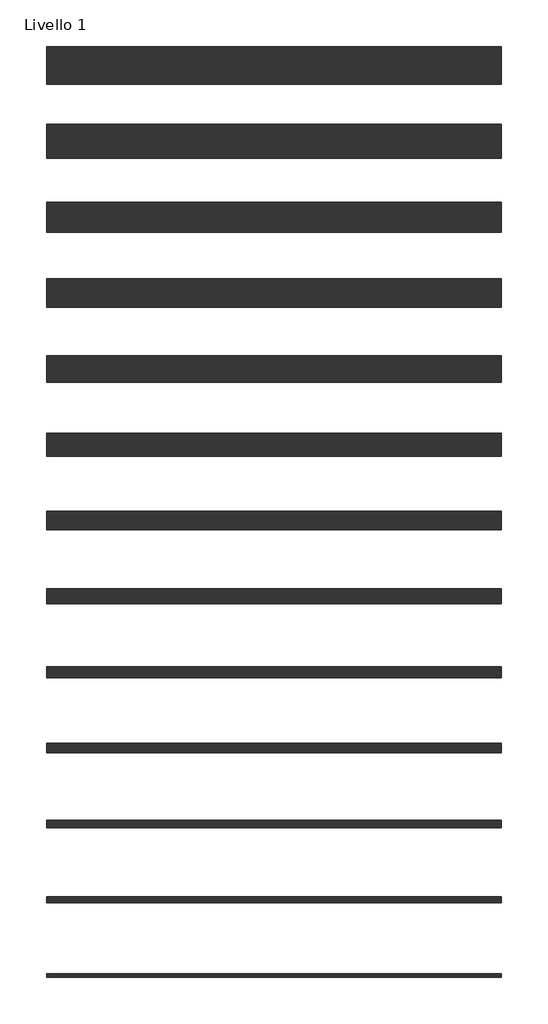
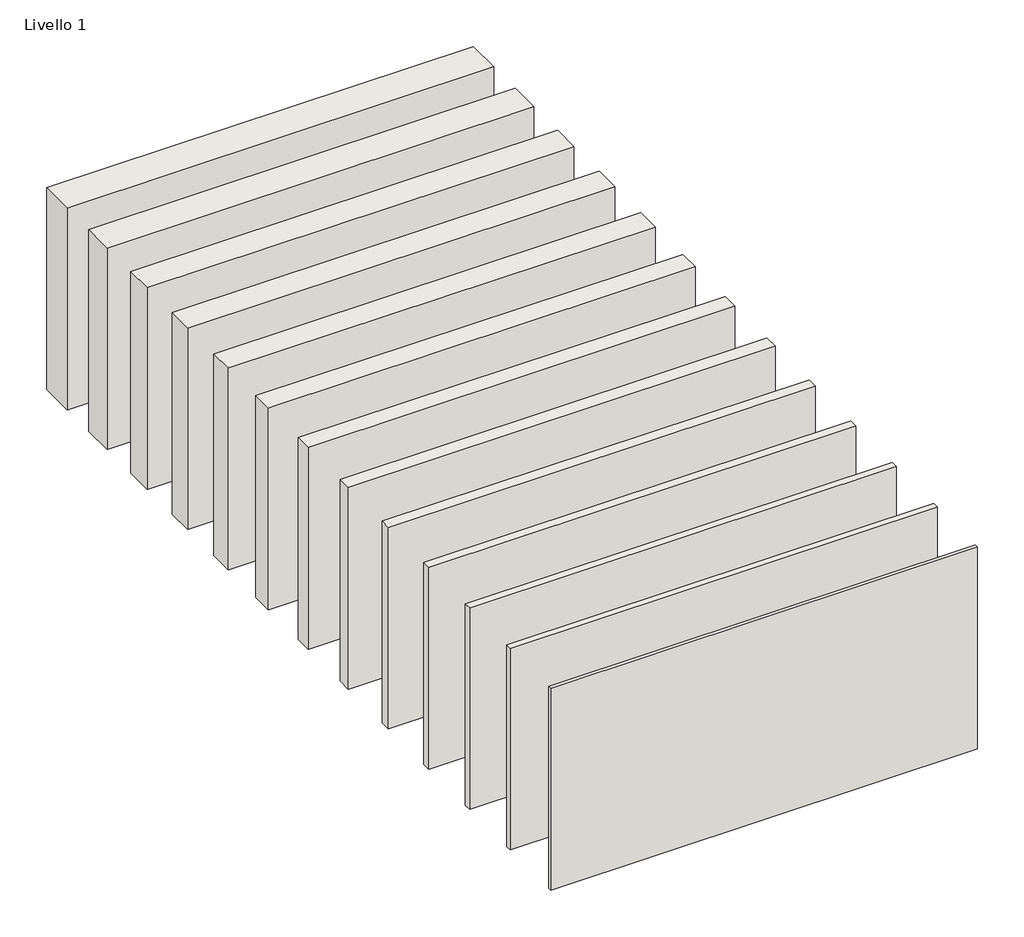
# One storey: 13 walls.
"""IFC4 building model written with IfcOpenShell, lengths in millimetres."""

import ifcopenshell
import ifcopenshell.guid

model = None  # the IFC model being written
_history = None  # IfcOwnerHistory: only IFC2X3 demands one
_inside = {}  # id of a spatial element -> (the spatial element, [elements in it])
_under = {}  # id of a project, library or spatial element -> (it, [spatial elements below it])
_declared = {}  # id of a project -> (the project, [libraries it declares])
_typed = {}  # id of a type object -> (the type object, [elements of that type])
_made_of = {}  # id of a material, layer set ... -> (it, [elements and type objects made of it])


def new_model(schema):
    """Start an empty IFC model of exactly this schema.

    Asked for "IFC4X3", IfcOpenShell would pick the latest addendum, in which some entities
    have other attributes; the version numbers below select the first issue.
    IFC2X3 requires an IfcOwnerHistory on every rooted entity: one is made here for all.
    """
    global model, _history
    if schema == "IFC4X3":
        model = ifcopenshell.file(schema_version=(4, 3, 0, 0))
    else:
        model = ifcopenshell.file(schema=schema)
    _inside.clear()
    _under.clear()
    _declared.clear()
    _typed.clear()
    _made_of.clear()
    _history = None
    if model.schema == "IFC2X3":
        org = make("IfcOrganization", Name="unknown")
        user = make(
            "IfcPersonAndOrganization",
            ThePerson=make("IfcPerson", FamilyName="unknown"),
            TheOrganization=org,
        )
        app = make(
            "IfcApplication",
            ApplicationDeveloper=org,
            Version="unknown",
            ApplicationFullName="unknown",
            ApplicationIdentifier="unknown",
        )
        _history = make(
            "IfcOwnerHistory",
            OwningUser=user,
            OwningApplication=app,
            ChangeAction="ADDED",
            CreationDate=0,
        )
    return model


def make(cls, **values):
    """One entity of the class cls with the attributes given. An attribute that is None is left unset."""
    return model.create_entity(
        cls, **{name: value for name, value in values.items() if value is not None}
    )


def rooted(cls, **values):
    """An entity with a GlobalId (a new one), such as an element, a storey or a relation."""
    return make(cls, GlobalId=ifcopenshell.guid.new(), OwnerHistory=_history, **values)


def si_unit(unit_type, name, prefix=None):
    """IfcSIUnit, for example si_unit("LENGTHUNIT", "METRE", prefix="MILLI")."""
    return make("IfcSIUnit", UnitType=unit_type, Prefix=prefix, Name=name)


def assignment(units):
    """IfcUnitAssignment: the units of a project."""
    return None if units is None else make("IfcUnitAssignment", Units=units)


def point(xyz):
    """IfcCartesianPoint."""
    return None if xyz is None else make("IfcCartesianPoint", Coordinates=xyz)


def direction(xyz):
    """IfcDirection."""
    return None if xyz is None else make("IfcDirection", DirectionRatios=xyz)


def frame(location, z_axis=None, x_axis=None):
    """IfcAxis2Placement3D, a coordinate frame: its origin and axes. An axis left out is left unset."""
    return make(
        "IfcAxis2Placement3D",
        Location=point(location),
        Axis=direction(z_axis),
        RefDirection=direction(x_axis),
    )


def origin():
    """The frame at (0, 0, 0) with its axes left unset."""
    return frame((0.0, 0.0, 0.0))


def origin_with_axes():
    """The frame at (0, 0, 0) with the z axis (0, 0, 1) and the x axis (1, 0, 0) written out."""
    return frame((0.0, 0.0, 0.0), z_axis=(0.0, 0.0, 1.0), x_axis=(1.0, 0.0, 0.0))


def place(relative_to, where):
    """IfcLocalPlacement: puts the frame where relative to a parent placement (None: the world)."""
    return make(
        "IfcLocalPlacement", PlacementRelTo=relative_to, RelativePlacement=where
    )


def context(
    kind, dimensions, precision=None, world=None, true_north=None, identifier=None
):
    """IfcGeometricRepresentationContext, for example the 3D "Model" context."""
    return make(
        "IfcGeometricRepresentationContext",
        ContextIdentifier=identifier,
        ContextType=kind,
        CoordinateSpaceDimension=dimensions,
        Precision=precision,
        WorldCoordinateSystem=world,
        TrueNorth=true_north,
    )


def project(units=None, contexts=None):
    """IfcProject with its units and contexts."""
    return rooted(
        "IfcProject",
        Name="project",
        RepresentationContexts=contexts,
        UnitsInContext=assignment(units),
    )


def spatial(cls, under=None, at=None, **own):
    """A site, building, storey or space (cls), placed at a placement, below another one or the project."""
    s = rooted(cls, ObjectPlacement=at, **own)
    if under is not None:
        _under.setdefault(under.id(), (under, []))[1].append(s)
    return s


def polyline(points):
    """IfcPolyline through the points."""
    return make("IfcPolyline", Points=[point(p) for p in points])


def outline(outer, holes=None, kind="AREA"):
    """IfcArbitraryClosedProfileDef: a profile drawn as a closed curve; with holes, ...WithVoids."""
    if holes is None:
        return make("IfcArbitraryClosedProfileDef", ProfileType=kind, OuterCurve=outer)
    return make(
        "IfcArbitraryProfileDefWithVoids",
        ProfileType=kind,
        OuterCurve=outer,
        InnerCurves=holes,
    )


def extrude(swept, where, along, depth):
    """IfcExtrudedAreaSolid: the profile swept, set in the frame where, extruded along a direction by depth."""
    return make(
        "IfcExtrudedAreaSolid",
        SweptArea=swept,
        Position=where,
        ExtrudedDirection=direction(along),
        Depth=depth,
    )


def shape(context_of_items, identifier, shape_type, items):
    """IfcShapeRepresentation: the items that make up one representation, for example the "Body"."""
    return make(
        "IfcShapeRepresentation",
        ContextOfItems=context_of_items,
        RepresentationIdentifier=identifier,
        RepresentationType=shape_type,
        Items=items,
    )


def made_of(thing, what):
    """Note that an element or type object is made of a material, layer set ...; save() writes the relation."""
    if what is not None:
        _made_of.setdefault(what.id(), (what, []))[1].append(thing)
    return thing


def element(
    cls,
    number,
    at=None,
    inside=None,
    cuts=None,
    type_object=None,
    material=None,
    context=None,
    identifier="Body",
    shape_type=None,
    held_by="IfcProductDefinitionShape",
    body=None,
    shapes=None,
    **own,
):
    """One element of the class cls, such as IfcWall. Its Tag is "e" and its number.

    at: its placement. inside: the storey or other place that contains it. cuts: it is an
    opening in that element (IfcRelVoidsElement). A single representation is given by context,
    identifier, shape_type and body (its items); several are given by shapes. held_by: the class
    of the entity that holds the representations. save() writes the other relations.
    """
    e = rooted(cls, Tag="e%d" % number, ObjectPlacement=at, **own)
    if body is not None:
        shapes = [shape(context, identifier, shape_type, body)]
    if shapes is not None:
        e.Representation = make(held_by, Representations=shapes)
    if inside is not None:
        _inside.setdefault(inside.id(), (inside, []))[1].append(e)
    if cuts is not None:
        rooted(
            "IfcRelVoidsElement", RelatingBuildingElement=cuts, RelatedOpeningElement=e
        )
    if type_object is not None:
        _typed.setdefault(type_object.id(), (type_object, []))[1].append(e)
    return made_of(e, material)


def aggregate(whole, parts):
    """IfcRelAggregates: a whole, such as a stair, and the parts it consists of."""
    return rooted("IfcRelAggregates", RelatingObject=whole, RelatedObjects=parts)


def save(model, path):
    """Write the relations noted so far, then the file.

    IfcRelAggregates (storeys below a building ...), IfcRelContainedInSpatialStructure (elements
    in a storey), IfcRelDefinesByType, IfcRelAssociatesMaterial and IfcRelDeclares: one each for
    every whole, place, type object, material and project.
    """
    for whole, parts in _under.values():
        aggregate(whole, parts)
    for where, things in _inside.values():
        rooted(
            "IfcRelContainedInSpatialStructure",
            RelatedElements=things,
            RelatingStructure=where,
        )
    for kind, things in _typed.values():
        rooted("IfcRelDefinesByType", RelatedObjects=things, RelatingType=kind)
    for what, things in _made_of.values():
        rooted("IfcRelAssociatesMaterial", RelatedObjects=things, RelatingMaterial=what)
    for by, libraries in _declared.values():
        rooted("IfcRelDeclares", RelatingContext=by, RelatedDefinitions=libraries)
    model.write(path)


model = new_model("IFC4")

# Units and contexts
model_context = context("Model", 3, world=origin())
ifc_project = project(units=[si_unit("LENGTHUNIT", "METRE", prefix="MILLI")], contexts=[model_context])

# Site, building, storey
site = spatial("IfcSite", under=ifc_project)
building = spatial("IfcBuilding", under=site)
storey = spatial("IfcBuildingStorey", under=building, Name="Livello 1", Elevation=0.0)

# Walls
placement = place(None, origin())
element("IfcWall", 1, ObjectType="GASBETON Evolution sp. 500 mm", at=placement, inside=storey, context=model_context, shape_type="SweptSolid", body=[
    extrude(outline(polyline([(2922.6532392, 7562.5170164), (-3077.3467608, 7562.5170164), (-3077.3467608, 8062.5170164), (2922.6532392, 8062.5170164), (2922.6532392, 7562.5170164)])), origin_with_axes(), (0.0, 0.0, 1.0), 3000.0),
])
element("IfcWall", 2, ObjectType="GASBETON Evolution sp. 450 mm", at=placement, inside=storey, context=model_context, shape_type="SweptSolid", body=[
    extrude(outline(polyline([(2922.6532392, 6587.5170164), (-3077.3467608, 6587.5170164), (-3077.3467608, 7037.5170164), (2922.6532392, 7037.5170164), (2922.6532392, 6587.5170164)])), origin_with_axes(), (0.0, 0.0, 1.0), 3000.0),
])
element("IfcWall", 3, ObjectType="GASBETON Evolution sp. 400 mm", at=placement, inside=storey, context=model_context, shape_type="SweptSolid", body=[
    extrude(outline(polyline([(2922.6532392, 5612.5170164), (-3077.3467608, 5612.5170164), (-3077.3467608, 6012.5170164), (2922.6532392, 6012.5170164), (2922.6532392, 5612.5170164)])), origin_with_axes(), (0.0, 0.0, 1.0), 3000.0),
])
element("IfcWall", 4, ObjectType="GASBETON Evolution sp. 375 mm", at=placement, inside=storey, context=model_context, shape_type="SweptSolid", body=[
    extrude(outline(polyline([(2922.6532392, 4625.0170164), (-3077.3467608, 4625.0170164), (-3077.3467608, 5000.0170164), (2922.6532392, 5000.0170164), (2922.6532392, 4625.0170164)])), origin_with_axes(), (0.0, 0.0, 1.0), 3000.0),
])
element("IfcWall", 5, ObjectType="GASBETON Evolution sp. 350 mm", at=placement, inside=storey, context=model_context, shape_type="SweptSolid", body=[
    extrude(outline(polyline([(2922.6532392, 3637.5170164), (-3077.3467608, 3637.5170164), (-3077.3467608, 3987.5170164), (2922.6532392, 3987.5170164), (2922.6532392, 3637.5170164)])), origin_with_axes(), (0.0, 0.0, 1.0), 3000.0),
])
element("IfcWall", 6, ObjectType="GASBETON Evolution sp. 300 mm", at=placement, inside=storey, context=model_context, shape_type="SweptSolid", body=[
    extrude(outline(polyline([(2922.6532392, 2662.5170164), (-3077.3467608, 2662.5170164), (-3077.3467608, 2962.5170164), (2922.6532392, 2962.5170164), (2922.6532392, 2662.5170164)])), origin_with_axes(), (0.0, 0.0, 1.0), 3000.0),
])
element("IfcWall", 7, ObjectType="GASBETON Evolution sp. 240 mm", at=placement, inside=storey, context=model_context, shape_type="SweptSolid", body=[
    extrude(outline(polyline([(2922.6532392, 1692.5170164), (-3077.3467608, 1692.5170164), (-3077.3467608, 1932.5170164), (2922.6532392, 1932.5170164), (2922.6532392, 1692.5170164)])), origin_with_axes(), (0.0, 0.0, 1.0), 3000.0),
])
element("IfcWall", 8, ObjectType="GASBETON Evolution sp. 200 mm", at=placement, inside=storey, context=model_context, shape_type="SweptSolid", body=[
    extrude(outline(polyline([(2922.6532392, 712.5170164), (-3077.3467608, 712.5170164), (-3077.3467608, 912.5170164), (2922.6532392, 912.5170164), (2922.6532392, 712.5170164)])), origin_with_axes(), (0.0, 0.0, 1.0), 3000.0),
])
element("IfcWall", 9, ObjectType="GASBETON Evolution sp. 150 mm", at=placement, inside=storey, context=model_context, shape_type="SweptSolid", body=[
    extrude(outline(polyline([(2922.6532392, -262.4829836), (-3077.3467608, -262.4829836), (-3077.3467608, -112.4829836), (2922.6532392, -112.4829836), (2922.6532392, -262.4829836)])), origin_with_axes(), (0.0, 0.0, 1.0), 3000.0),
])
element("IfcWall", 10, ObjectType="GASBETON Evolution sp. 120 mm", at=placement, inside=storey, context=model_context, shape_type="SweptSolid", body=[
    extrude(outline(polyline([(2922.6532392, -1247.4829836), (-3077.3467608, -1247.4829836), (-3077.3467608, -1127.4829836), (2922.6532392, -1127.4829836), (2922.6532392, -1247.4829836)])), origin_with_axes(), (0.0, 0.0, 1.0), 3000.0),
])
element("IfcWall", 11, ObjectType="GASBETON Evolution sp. 100 mm", at=placement, inside=storey, context=model_context, shape_type="SweptSolid", body=[
    extrude(outline(polyline([(2922.6532392, -2237.4829836), (-3077.3467608, -2237.4829836), (-3077.3467608, -2137.4829836), (2922.6532392, -2137.4829836), (2922.6532392, -2237.4829836)])), origin_with_axes(), (0.0, 0.0, 1.0), 3000.0),
])
element("IfcWall", 12, ObjectType="GASBETON Evolution sp. 80 mm", at=placement, inside=storey, context=model_context, shape_type="SweptSolid", body=[
    extrude(outline(polyline([(2922.6532392, -3227.4829836), (-3077.3467608, -3227.4829836), (-3077.3467608, -3147.4829836), (2922.6532392, -3147.4829836), (2922.6532392, -3227.4829836)])), origin_with_axes(), (0.0, 0.0, 1.0), 3000.0),
])
element("IfcWall", 13, ObjectType="GASBETON Evolution sp. 50 mm", at=placement, inside=storey, context=model_context, shape_type="SweptSolid", body=[
    extrude(outline(polyline([(2922.6532392, -4212.4829836), (-3077.3467608, -4212.4829836), (-3077.3467608, -4162.4829836), (2922.6532392, -4162.4829836), (2922.6532392, -4212.4829836)])), origin_with_axes(), (0.0, 0.0, 1.0), 3000.0),
])

save(model, "model.ifc")
